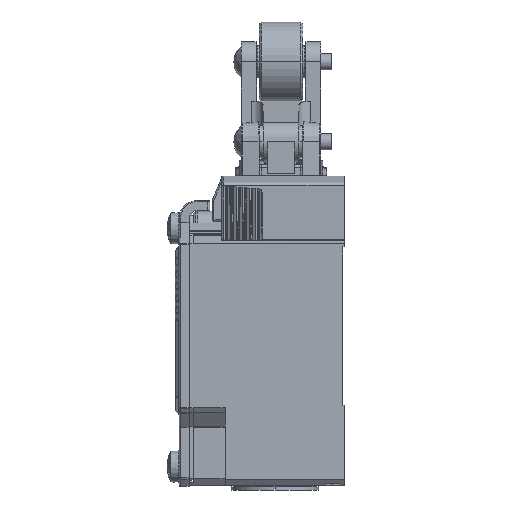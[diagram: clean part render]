
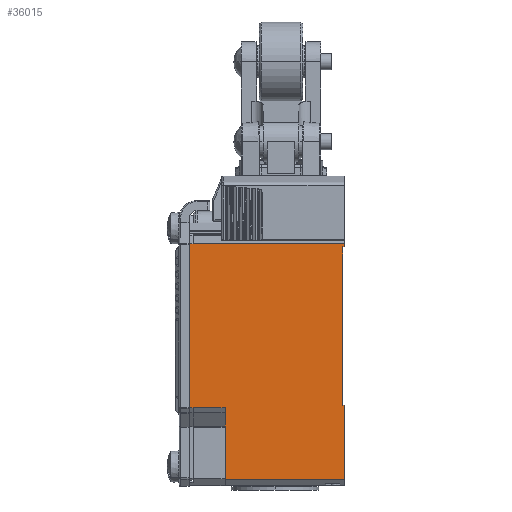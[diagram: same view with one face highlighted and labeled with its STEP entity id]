
A CAD part, left-side view. The second image highlights one B-rep face of the part: STEP entity #36015.
In plain terms, the highlighted planar face has unit normal (-1, 0, 0).
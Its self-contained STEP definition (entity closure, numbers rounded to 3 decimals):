
#1844=DIRECTION('',(0.,0.,1.));
#1845=VECTOR('',#1844,41.037);
#1846=CARTESIAN_POINT('',(-21.,39.,-53.437));
#1847=LINE('',#1846,#1845);
#1851=DIRECTION('',(0.,1.,0.));
#1852=VECTOR('',#1851,1.);
#1853=CARTESIAN_POINT('',(-21.,38.,-12.4));
#1854=LINE('',#1853,#1852);
#1858=DIRECTION('',(0.,1.,0.));
#1859=VECTOR('',#1858,0.5);
#1860=CARTESIAN_POINT('',(-21.,0.,-13.2));
#1861=LINE('',#1860,#1859);
#1865=DIRECTION('',(0.,0.,1.));
#1866=VECTOR('',#1865,39.628);
#1867=CARTESIAN_POINT('',(-21.,0.5,-52.828));
#1868=LINE('',#1867,#1866);
#1872=DIRECTION('',(0.,1.,0.));
#1873=VECTOR('',#1872,0.5);
#1874=CARTESIAN_POINT('',(-21.,0.,-52.828));
#1875=LINE('',#1874,#1873);
#1879=DIRECTION('',(0.,-1.,0.));
#1880=VECTOR('',#1879,30.);
#1881=CARTESIAN_POINT('',(-21.,30.,-71.362));
#1882=LINE('',#1881,#1880);
#1886=DIRECTION('',(0.,1.,0.));
#1887=VECTOR('',#1886,1.);
#1888=CARTESIAN_POINT('',(-21.,38.,-53.437));
#1889=LINE('',#1888,#1887);
#5018=DIRECTION('',(0.,0.,-1.));
#5019=VECTOR('',#5018,0.07);
#5020=CARTESIAN_POINT('',(-21.,38.,-53.437));
#5021=LINE('',#5020,#5019);
#5137=DIRECTION('',(0.,1.,0.));
#5138=VECTOR('',#5137,8.);
#5139=CARTESIAN_POINT('',(-21.,30.,-53.507));
#5140=LINE('',#5139,#5138);
#5179=DIRECTION('',(0.,0.,1.));
#5180=VECTOR('',#5179,17.855);
#5181=CARTESIAN_POINT('',(-21.,30.,-71.362));
#5182=LINE('',#5181,#5180);
#5293=DIRECTION('',(0.,0.,1.));
#5294=VECTOR('',#5293,18.534);
#5295=CARTESIAN_POINT('',(-21.,0.,-71.362));
#5296=LINE('',#5295,#5294);
#20236=DIRECTION('',(0.,0.,1.));
#20237=VECTOR('',#20236,0.85);
#20238=CARTESIAN_POINT('',(-21.,0.,-13.2));
#20239=LINE('',#20238,#20237);
#20367=DIRECTION('',(0.,1.,0.));
#20368=VECTOR('',#20367,38.);
#20369=CARTESIAN_POINT('',(-21.,0.,-12.35));
#20370=LINE('',#20369,#20368);
#22125=DIRECTION('',(0.,0.,-1.));
#22126=VECTOR('',#22125,0.05);
#22127=CARTESIAN_POINT('',(-21.,38.,-12.35));
#22128=LINE('',#22127,#22126);
#30948=CARTESIAN_POINT('',(-21.,0.,-71.362));
#30950=VERTEX_POINT('',#30948);
#30953=CARTESIAN_POINT('',(-21.,30.,-71.362));
#30955=VERTEX_POINT('',#30953);
#31032=CARTESIAN_POINT('',(-21.,0.5,-52.828));
#31033=CARTESIAN_POINT('',(-21.,0.5,-13.2));
#31034=VERTEX_POINT('',#31032);
#31035=VERTEX_POINT('',#31033);
#31040=CARTESIAN_POINT('',(-21.,0.,-13.2));
#31042=VERTEX_POINT('',#31040);
#32852=CARTESIAN_POINT('',(-21.,38.,-53.507));
#32854=VERTEX_POINT('',#32852);
#32868=CARTESIAN_POINT('',(-21.,30.,-53.507));
#32870=VERTEX_POINT('',#32868);
#32900=CARTESIAN_POINT('',(-21.,0.,-12.35));
#32901=CARTESIAN_POINT('',(-21.,38.,-12.35));
#32902=VERTEX_POINT('',#32900);
#32903=VERTEX_POINT('',#32901);
#33086=CARTESIAN_POINT('',(-21.,0.,-52.828));
#33087=VERTEX_POINT('',#33086);
#33708=CARTESIAN_POINT('',(-21.,38.,-12.4));
#33710=VERTEX_POINT('',#33708);
#33719=CARTESIAN_POINT('',(-21.,38.,-53.437));
#33720=VERTEX_POINT('',#33719);
#34535=CARTESIAN_POINT('',(-21.,39.,-53.437));
#34536=CARTESIAN_POINT('',(-21.,39.,-12.4));
#34537=VERTEX_POINT('',#34535);
#34538=VERTEX_POINT('',#34536);
#35982=CARTESIAN_POINT('',(-21.,0.,-73.));
#35983=DIRECTION('',(-1.,0.,0.));
#35984=DIRECTION('',(0.,0.,1.));
#35985=AXIS2_PLACEMENT_3D('',#35982,#35983,#35984);
#35986=PLANE('',#35985);
#35987=ORIENTED_EDGE('',*,*,#35738,.T.);
#35989=ORIENTED_EDGE('',*,*,#35988,.F.);
#35991=ORIENTED_EDGE('',*,*,#35990,.F.);
#35993=ORIENTED_EDGE('',*,*,#35992,.F.);
#35995=ORIENTED_EDGE('',*,*,#35994,.F.);
#35997=ORIENTED_EDGE('',*,*,#35996,.T.);
#35999=ORIENTED_EDGE('',*,*,#35998,.F.);
#36001=ORIENTED_EDGE('',*,*,#36000,.F.);
#36003=ORIENTED_EDGE('',*,*,#36002,.F.);
#36005=ORIENTED_EDGE('',*,*,#36004,.F.);
#36007=ORIENTED_EDGE('',*,*,#36006,.T.);
#36009=ORIENTED_EDGE('',*,*,#36008,.T.);
#36011=ORIENTED_EDGE('',*,*,#36010,.F.);
#36012=ORIENTED_EDGE('',*,*,#35974,.T.);
#36013=EDGE_LOOP('',(#35987,#35989,#35991,#35993,#35995,#35997,#35999,#36001,
#36003,#36005,#36007,#36009,#36011,#36012));
#36014=FACE_OUTER_BOUND('',#36013,.F.);
#35738=EDGE_CURVE('',#34537,#34538,#1847,.T.);
#35974=EDGE_CURVE('',#33720,#34537,#1889,.T.);
#35988=EDGE_CURVE('',#33710,#34538,#1854,.T.);
#35990=EDGE_CURVE('',#32903,#33710,#22128,.T.);
#35992=EDGE_CURVE('',#32902,#32903,#20370,.T.);
#35994=EDGE_CURVE('',#31042,#32902,#20239,.T.);
#35996=EDGE_CURVE('',#31042,#31035,#1861,.T.);
#35998=EDGE_CURVE('',#31034,#31035,#1868,.T.);
#36000=EDGE_CURVE('',#33087,#31034,#1875,.T.);
#36002=EDGE_CURVE('',#30950,#33087,#5296,.T.);
#36004=EDGE_CURVE('',#30955,#30950,#1882,.T.);
#36006=EDGE_CURVE('',#30955,#32870,#5182,.T.);
#36008=EDGE_CURVE('',#32870,#32854,#5140,.T.);
#36010=EDGE_CURVE('',#33720,#32854,#5021,.T.);
#36015=ADVANCED_FACE('',(#36014),#35986,.T.);
